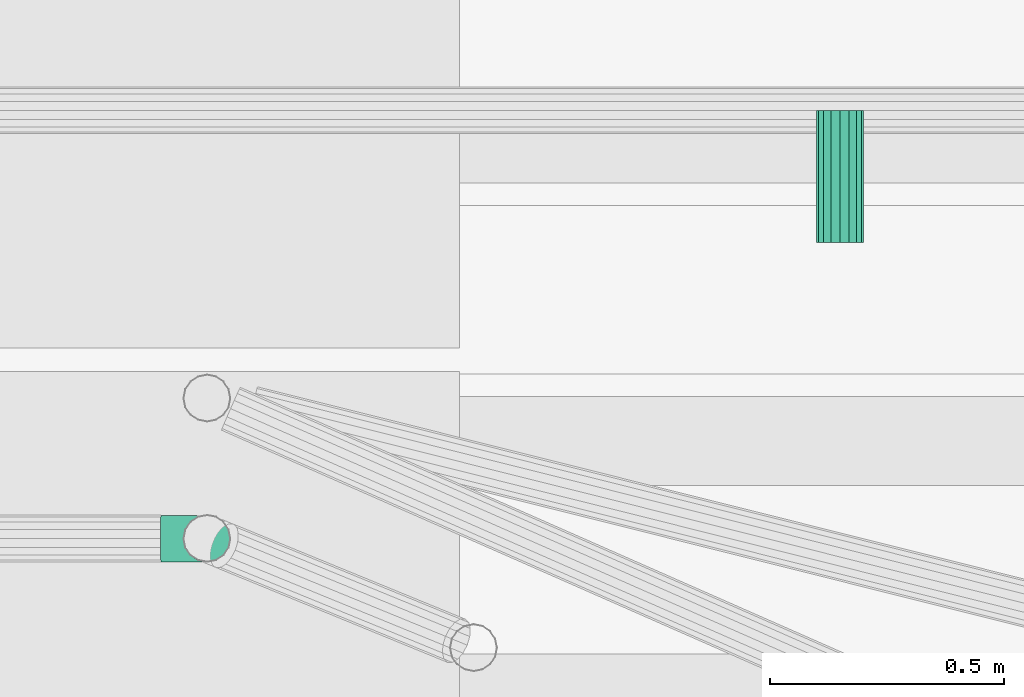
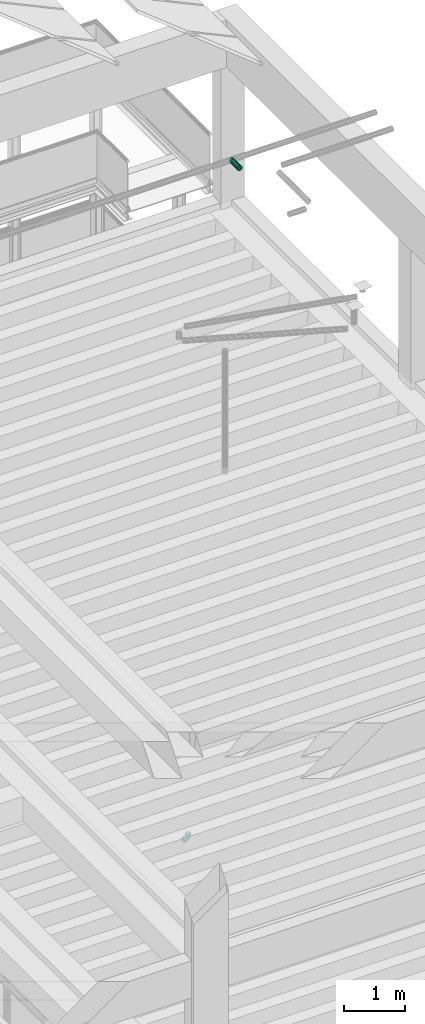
# One storey, part 97 of 106: 1 flow fitting, 1 flow segment.
"""IFC2X3 building model written with IfcOpenShell, lengths in metres."""

from ifc_helpers import new_model, entity, si_unit, converted_unit, derived_unit, money_unit, direction, frame, origin_with_axes, place, context, subcontext, project, spatial, open_shell, faceted_brep, surface_model, material, type_object, element, save


model = new_model("IFC2X3")

# Units and contexts
model_context = context("Model", 3, precision=1e-05, world=origin_with_axes(), true_north=direction((0.0, 1.0)))
body_context = subcontext(model_context, "Body", "Model", "MODEL_VIEW", scale=1.0)
ifc_project = project(units=[si_unit("LENGTHUNIT", "METRE"), si_unit("AREAUNIT", "SQUARE_METRE"), si_unit("VOLUMEUNIT", "CUBIC_METRE"), si_unit("ABSORBEDDOSEUNIT", "GRAY"), si_unit("AMOUNTOFSUBSTANCEUNIT", "MOLE"), si_unit("DOSEEQUIVALENTUNIT", "SIEVERT"), si_unit("ELECTRICCAPACITANCEUNIT", "FARAD"), si_unit("ELECTRICCHARGEUNIT", "COULOMB"), si_unit("ELECTRICCONDUCTANCEUNIT", "SIEMENS"), si_unit("ELECTRICCURRENTUNIT", "AMPERE"), si_unit("ELECTRICRESISTANCEUNIT", "OHM"), si_unit("ELECTRICVOLTAGEUNIT", "VOLT"), si_unit("ENERGYUNIT", "JOULE"), si_unit("FORCEUNIT", "NEWTON"), si_unit("FREQUENCYUNIT", "HERTZ"), si_unit("ILLUMINANCEUNIT", "LUX"), si_unit("INDUCTANCEUNIT", "HENRY"), si_unit("LUMINOUSFLUXUNIT", "LUMEN"), si_unit("LUMINOUSINTENSITYUNIT", "CANDELA"), si_unit("MAGNETICFLUXDENSITYUNIT", "TESLA"), si_unit("MAGNETICFLUXUNIT", "WEBER"), si_unit("MASSUNIT", "GRAM"), converted_unit("PLANEANGLEUNIT", "degree", entity("IfcReal", 0.0174532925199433), si_unit("PLANEANGLEUNIT", "RADIAN"), dimensions=[0, 0, 0, 0, 0, 0, 0]), si_unit("POWERUNIT", "WATT"), si_unit("PRESSUREUNIT", "PASCAL"), si_unit("RADIOACTIVITYUNIT", "BECQUEREL"), si_unit("SOLIDANGLEUNIT", "STERADIAN"), si_unit("THERMODYNAMICTEMPERATUREUNIT", "KELVIN"), si_unit("TIMEUNIT", "SECOND"), derived_unit("ACCELERATIONUNIT", [(si_unit("LENGTHUNIT", "METRE"), 1), (si_unit("TIMEUNIT", "SECOND"), -2)]), derived_unit("ANGULARVELOCITYUNIT", [(converted_unit("PLANEANGLEUNIT", "degree", entity("IfcReal", 0.0174532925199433), si_unit("PLANEANGLEUNIT", "RADIAN"), dimensions=[0, 0, 0, 0, 0, 0, 0]), 1), (si_unit("TIMEUNIT", "SECOND"), -1)]), derived_unit("CURVATUREUNIT", [(converted_unit("PLANEANGLEUNIT", "degree", entity("IfcReal", 0.0174532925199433), si_unit("PLANEANGLEUNIT", "RADIAN"), dimensions=[0, 0, 0, 0, 0, 0, 0]), 1), (si_unit("LENGTHUNIT", "METRE"), -1)]), derived_unit("DYNAMICVISCOSITYUNIT", [(si_unit("PRESSUREUNIT", "PASCAL"), 1), (si_unit("TIMEUNIT", "SECOND"), 1)]), derived_unit("HEATFLUXDENSITYUNIT", [(si_unit("POWERUNIT", "WATT"), 1), (si_unit("LENGTHUNIT", "METRE"), -2)]), derived_unit("HEATINGVALUEUNIT", [(si_unit("ENERGYUNIT", "JOULE"), 1), (si_unit("MASSUNIT", "GRAM"), -1)]), derived_unit("INTEGERCOUNTRATEUNIT", [(si_unit("TIMEUNIT", "SECOND"), -1)]), derived_unit("IONCONCENTRATIONUNIT", [(si_unit("MASSUNIT", "GRAM"), 1), (si_unit("VOLUMEUNIT", "CUBIC_METRE"), -1)]), derived_unit("ISOTHERMALMOISTURECAPACITYUNIT", [(si_unit("VOLUMEUNIT", "CUBIC_METRE"), 1), (si_unit("MASSUNIT", "GRAM"), -1)]), derived_unit("KINEMATICVISCOSITYUNIT", [(si_unit("AREAUNIT", "SQUARE_METRE"), 1), (si_unit("TIMEUNIT", "SECOND"), -1)]), derived_unit("LINEARFORCEUNIT", [(si_unit("FORCEUNIT", "NEWTON"), 1), (si_unit("LENGTHUNIT", "METRE"), -1)]), derived_unit("LINEARMOMENTUNIT", [(si_unit("FORCEUNIT", "NEWTON"), 1), (si_unit("LENGTHUNIT", "METRE"), -1)]), derived_unit("LINEARSTIFFNESSUNIT", [(si_unit("FORCEUNIT", "NEWTON"), 1), (si_unit("LENGTHUNIT", "METRE"), -1)]), derived_unit("LINEARVELOCITYUNIT", [(si_unit("LENGTHUNIT", "METRE"), 1), (si_unit("TIMEUNIT", "SECOND"), -1)]), derived_unit("LUMINOUSINTENSITYDISTRIBUTIONUNIT", [(si_unit("LUMINOUSINTENSITYUNIT", "CANDELA"), 1), (si_unit("LUMINOUSFLUXUNIT", "LUMEN"), -1)]), derived_unit("MASSDENSITYUNIT", [(si_unit("MASSUNIT", "GRAM"), 1), (si_unit("VOLUMEUNIT", "CUBIC_METRE"), -1)]), derived_unit("MASSFLOWRATEUNIT", [(si_unit("MASSUNIT", "GRAM"), 1), (si_unit("TIMEUNIT", "SECOND"), -1)]), derived_unit("MASSPERLENGTHUNIT", [(si_unit("MASSUNIT", "GRAM"), 1), (si_unit("LENGTHUNIT", "METRE"), -1)]), derived_unit("MODULUSOFELASTICITYUNIT", [(si_unit("FORCEUNIT", "NEWTON"), 1), (si_unit("AREAUNIT", "SQUARE_METRE"), -1)]), derived_unit("MODULUSOFLINEARSUBGRADEREACTIONUNIT", [(si_unit("FORCEUNIT", "NEWTON"), 1), (si_unit("LENGTHUNIT", "METRE"), -2)]), derived_unit("MODULUSOFROTATIONALSUBGRADEREACTIONUNIT", [(si_unit("FORCEUNIT", "NEWTON"), 1), (si_unit("LENGTHUNIT", "METRE"), 1)]), derived_unit("MODULUSOFSUBGRADEREACTIONUNIT", [(si_unit("FORCEUNIT", "NEWTON"), 1), (si_unit("VOLUMEUNIT", "CUBIC_METRE"), -1)]), derived_unit("MOISTUREDIFFUSIVITYUNIT", [(si_unit("VOLUMEUNIT", "CUBIC_METRE"), 1), (si_unit("TIMEUNIT", "SECOND"), -1)]), derived_unit("MOLECULARWEIGHTUNIT", [(si_unit("MASSUNIT", "GRAM"), 1), (si_unit("AMOUNTOFSUBSTANCEUNIT", "MOLE"), -1)]), derived_unit("PLANARFORCEUNIT", [(si_unit("FORCEUNIT", "NEWTON"), 1), (si_unit("LENGTHUNIT", "METRE"), -2)]), derived_unit("ROTATIONALFREQUENCYUNIT", [(si_unit("TIMEUNIT", "SECOND"), -1)]), derived_unit("ROTATIONALMASSUNIT", [(si_unit("MASSUNIT", "GRAM"), 1), (si_unit("LENGTHUNIT", "METRE"), 2)]), derived_unit("ROTATIONALSTIFFNESSUNIT", [(si_unit("FORCEUNIT", "NEWTON"), 1), (si_unit("LENGTHUNIT", "METRE"), 1), (converted_unit("PLANEANGLEUNIT", "degree", entity("IfcReal", 0.0174532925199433), si_unit("PLANEANGLEUNIT", "RADIAN"), dimensions=[0, 0, 0, 0, 0, 0, 0]), -1)]), derived_unit("SECTIONAREAINTEGRALUNIT", [(si_unit("LENGTHUNIT", "METRE"), 5)]), derived_unit("SECTIONMODULUSUNIT", [(si_unit("LENGTHUNIT", "METRE"), 3)]), derived_unit("SHEARMODULUSUNIT", [(si_unit("FORCEUNIT", "NEWTON"), 1), (si_unit("AREAUNIT", "SQUARE_METRE"), -1)]), derived_unit("SOUNDPOWERUNIT", [(si_unit("ENERGYUNIT", "JOULE"), 1), (si_unit("TIMEUNIT", "SECOND"), -1)]), derived_unit("SPECIFICHEATCAPACITYUNIT", [(si_unit("FORCEUNIT", "NEWTON"), 1), (si_unit("MASSUNIT", "GRAM"), -1), (si_unit("THERMODYNAMICTEMPERATUREUNIT", "KELVIN"), -1)]), derived_unit("TEMPERATUREGRADIENTUNIT", [(si_unit("THERMODYNAMICTEMPERATUREUNIT", "KELVIN"), 1), (si_unit("LENGTHUNIT", "METRE"), -1)]), derived_unit("THERMALADMITTANCEUNIT", [(si_unit("POWERUNIT", "WATT"), 1), (si_unit("AREAUNIT", "SQUARE_METRE"), -1), (si_unit("THERMODYNAMICTEMPERATUREUNIT", "KELVIN"), -1)]), derived_unit("THERMALCONDUCTANCEUNIT", [(si_unit("POWERUNIT", "WATT"), 1), (si_unit("LENGTHUNIT", "METRE"), -1), (si_unit("THERMODYNAMICTEMPERATUREUNIT", "KELVIN"), -1)]), derived_unit("THERMALEXPANSIONCOEFFICIENTUNIT", [(si_unit("THERMODYNAMICTEMPERATUREUNIT", "KELVIN"), -1)]), derived_unit("THERMALRESISTANCEUNIT", [(si_unit("AREAUNIT", "SQUARE_METRE"), 1), (si_unit("POWERUNIT", "WATT"), -1)]), derived_unit("THERMALTRANSMITTANCEUNIT", [(si_unit("POWERUNIT", "WATT"), 1), (si_unit("AREAUNIT", "SQUARE_METRE"), -1), (si_unit("THERMODYNAMICTEMPERATUREUNIT", "KELVIN"), -1)]), derived_unit("TORQUEUNIT", [(si_unit("FORCEUNIT", "NEWTON"), 1), (si_unit("LENGTHUNIT", "METRE"), 1)]), derived_unit("VAPORPERMEABILITYUNIT", [(si_unit("MASSUNIT", "GRAM"), 1), (si_unit("TIMEUNIT", "SECOND"), -1)]), derived_unit("VOLUMETRICFLOWRATEUNIT", [(si_unit("VOLUMEUNIT", "CUBIC_METRE"), 1), (si_unit("TIMEUNIT", "SECOND"), -1)]), derived_unit("WARPINGCONSTANTUNIT", [(si_unit("LENGTHUNIT", "METRE"), 6)]), derived_unit("WARPINGMOMENTUNIT", [(si_unit("FORCEUNIT", "NEWTON"), 1), (si_unit("LENGTHUNIT", "METRE"), 2)]), money_unit("GBP")], contexts=[model_context])

# Site, building, storey
site_placement = place(None, origin_with_axes())
site = spatial("IfcSite", under=ifc_project, at=site_placement, Name="Site", CompositionType="ELEMENT")
building_placement = place(site_placement, origin_with_axes())
building = spatial("IfcBuilding", under=site, at=building_placement, Name="Building01", CompositionType="ELEMENT")
storey_placement = place(building_placement, origin_with_axes())
storey = spatial("IfcBuildingStorey", under=building, at=storey_placement, Name="GF", CompositionType="ELEMENT", Elevation=0.0)

# Flow segment
ifc_material_1 = material(Name="M_BSUK_Ventilation")
duct_segment_type = type_object("IfcDuctSegmentType", Name="M-RoundDuct", PredefinedType="RIGIDSEGMENT")
flow_segment_placement = place(storey_placement, frame((23.43, 8.749648, 17.28), z_axis=(0.0, 0.0, 1.0), x_axis=(0.0, 1.0, 0.0)))
element("IfcFlowSegment", 1, at=flow_segment_placement, inside=storey, type_object=duct_segment_type, material=ifc_material_1, Name="M-RoundDuct", ObjectType="M-RoundDuct", context=body_context, shape_type="Brep", body=[
    faceted_brep([(0.282911, 0.0, -0.05), (0.0, 0.0, -0.05), (0.0, 0.019134, -0.046194), (0.282911, 0.019134, -0.046194), (0.0, 0.035355, -0.035355), (0.282911, 0.035355, -0.035355), (0.0, 0.046194, -0.019134), (0.282911, 0.046194, -0.019134), (0.0, 0.05, 0.0), (0.282911, 0.05, 0.0), (0.0, 0.046194, 0.019134), (0.282911, 0.046194, 0.019134), (0.0, 0.035355, 0.035355), (0.282911, 0.035355, 0.035355), (0.0, 0.019134, 0.046194), (0.282911, 0.019134, 0.046194), (0.0, 0.0, 0.05), (0.282911, 0.0, 0.05), (0.0, -0.019134, 0.046194), (0.282911, -0.019134, 0.046194), (0.0, -0.035355, 0.035355), (0.282911, -0.035355, 0.035355), (0.0, -0.046194, 0.019134), (0.282911, -0.046194, 0.019134), (0.0, -0.05, 0.0), (0.282911, -0.05, 0.0), (0.0, -0.046194, -0.019134), (0.282911, -0.046194, -0.019134), (0.0, -0.035355, -0.035355), (0.282911, -0.035355, -0.035355), (0.0, -0.019134, -0.046194), (0.282911, -0.019134, -0.046194)], [[[0, 1, 2, 3]], [[3, 2, 4, 5]], [[5, 4, 6, 7]], [[7, 6, 8, 9]], [[9, 8, 10, 11]], [[11, 10, 12, 13]], [[13, 12, 14, 15]], [[15, 14, 16, 17]], [[17, 16, 18, 19]], [[19, 18, 20, 21]], [[21, 20, 22, 23]], [[23, 22, 24, 25]], [[25, 24, 26, 27]], [[27, 26, 28, 29]], [[29, 28, 30, 31]], [[31, 30, 1, 0]]]),
])

# Flow fitting
ifc_material_2 = material(Name="M_BSUK_ColdWater")
pipe_fitting_type = type_object("IfcPipeFittingType", Name="M-BmpElbow-DefaultElbow", PredefinedType="BEND")
flow_fitting_placement = place(storey_placement, frame((22.076661, 8.116912, 4.751533), z_axis=(1.0, 0.0, 0.0), x_axis=(0.0, 0.0, -1.0)))
element("IfcFlowFitting", 2, at=flow_fitting_placement, inside=storey, type_object=pipe_fitting_type, material=ifc_material_2, Name="M-BmpElbow-DefaultElbow", ObjectType="M-BmpElbow-DefaultElbow", context=body_context, shape_type="SurfaceModel", body=[
    surface_model("IfcShellBasedSurfaceModel", [(0.008048, -0.01349, -0.048774), (0.0, -0.01349, -0.048146), (0.0, 0.0, -0.05), (0.00776, 0.0, -0.050606), (0.0159, -0.01349, -0.050644), (0.015332, 0.0, -0.052409), (0.023368, -0.01349, -0.05371), (0.022532, 0.0, -0.055365), (0.030269, -0.01349, -0.057897), (0.029187, 0.0, -0.059403), (0.036437, -0.01349, -0.063105), (0.035134, 0.0, -0.064424), (0.041721, -0.01349, -0.069207), (0.040229, 0.0, -0.070308), (0.045995, -0.01349, -0.076055), (0.04435, 0.0, -0.076912), (0.049154, -0.01349, -0.083484), (0.047396, 0.0, -0.084074), (0.051121, -0.01349, -0.091313), (0.049293, 0.0, -0.091623), (0.05185, -0.01349, -0.099352), (0.049996, 0.0, -0.099375), (0.00889, -0.025979, -0.043415), (0.0, -0.025979, -0.042721), (0.017564, -0.025979, -0.04548), (0.025813, -0.025979, -0.048867), (0.033436, -0.025979, -0.053493), (0.040248, -0.025979, -0.059245), (0.046086, -0.025979, -0.065986), (0.050807, -0.025979, -0.07355), (0.054296, -0.025979, -0.081756), (0.056469, -0.025979, -0.090404), (0.057275, -0.025979, -0.099284), (0.010223, -0.036542, -0.034926), (0.0, -0.036542, -0.034128), (0.020199, -0.036542, -0.037301), (0.029685, -0.036542, -0.041196), (0.038452, -0.036542, -0.046515), (0.046287, -0.036542, -0.053131), (0.053, -0.036542, -0.060883), (0.058429, -0.036542, -0.069582), (0.062442, -0.036542, -0.079019), (0.064941, -0.036542, -0.088964), (0.065867, -0.036542, -0.099177), (0.01195, -0.044394, -0.023936), (0.0, -0.044394, -0.023003), (0.02361, -0.044394, -0.026712), (0.034698, -0.044394, -0.031265), (0.044946, -0.044394, -0.037483), (0.054104, -0.044394, -0.045216), (0.061951, -0.044394, -0.054277), (0.068296, -0.044394, -0.064445), (0.072987, -0.044394, -0.075476), (0.075908, -0.044394, -0.0871), (0.076991, -0.044394, -0.099038), (0.013941, -0.048954, -0.011261), (0.0, -0.048954, -0.010173), (0.027544, -0.048954, -0.0145), (0.04048, -0.048954, -0.019811), (0.052435, -0.048954, -0.027065), (0.063119, -0.048954, -0.036087), (0.072274, -0.048954, -0.046657), (0.079677, -0.048954, -0.058521), (0.085149, -0.048954, -0.071389), (0.088558, -0.048954, -0.084951), (0.08982, -0.048954, -0.098877), (0.01605, -0.049883, 0.002159), (0.0, -0.049883, 0.003412), (0.03171, -0.049883, -0.00157), (0.046602, -0.049883, -0.007684), (0.060365, -0.049883, -0.016035), (0.072665, -0.049883, -0.026421), (0.083204, -0.049883, -0.03859), (0.091727, -0.049883, -0.052247), (0.098026, -0.049883, -0.067062), (0.101951, -0.049883, -0.082675), (0.103404, -0.049883, -0.098707), (0.018119, -0.047113, 0.015329), (0.0, -0.047113, 0.016744), (0.035798, -0.047113, 0.01112), (0.05261, -0.047113, 0.004218), (0.068147, -0.047113, -0.00521), (0.082033, -0.047113, -0.016935), (0.093931, -0.047113, -0.030673), (0.103552, -0.047113, -0.046091), (0.110664, -0.047113, -0.062816), (0.115094, -0.047113, -0.080441), (0.116735, -0.047113, -0.098541), (0.019995, -0.040848, 0.027273), (0.0, -0.040848, 0.028834), (0.039505, -0.040848, 0.022628), (0.058059, -0.040848, 0.01501), (0.075205, -0.040848, 0.004606), (0.090528, -0.040848, -0.008333), (0.103658, -0.040848, -0.023494), (0.114276, -0.040848, -0.040508), (0.122124, -0.040848, -0.058965), (0.127013, -0.040848, -0.078416), (0.128824, -0.040848, -0.09839), (0.021539, -0.031554, 0.037104), (0.0, -0.031554, 0.038786), (0.042557, -0.031554, 0.0321), (0.062543, -0.031554, 0.023894), (0.081014, -0.031554, 0.012686), (0.097521, -0.031554, -0.001252), (0.111665, -0.031554, -0.017584), (0.123103, -0.031554, -0.035913), (0.131557, -0.031554, -0.055795), (0.136824, -0.031554, -0.076749), (0.138775, -0.031554, -0.098265), (0.022638, -0.01992, 0.044093), (0.0, -0.01992, 0.045861), (0.044726, -0.01992, 0.038834), (0.065732, -0.01992, 0.03021), (0.085144, -0.01992, 0.018431), (0.102492, -0.01992, 0.003782), (0.117357, -0.01992, -0.013383), (0.129378, -0.01992, -0.032646), (0.138264, -0.01992, -0.053542), (0.143799, -0.01992, -0.075563), (0.145849, -0.01992, -0.098177), (0.023208, -0.006808, 0.047722), (0.0, -0.006808, 0.049534), (0.045853, -0.006808, 0.042331), (0.067387, -0.006808, 0.03349), (0.087288, -0.006808, 0.021414), (0.105074, -0.006808, 0.006395), (0.120313, -0.006808, -0.011201), (0.132637, -0.006808, -0.03095), (0.141746, -0.006808, -0.052372), (0.147421, -0.006808, -0.074948), (0.149523, -0.006808, -0.098131), (0.023208, 0.006808, 0.047722), (0.0, 0.006808, 0.049534), (0.045853, 0.006808, 0.042331), (0.067387, 0.006808, 0.03349), (0.087288, 0.006808, 0.021414), (0.105074, 0.006808, 0.006395), (0.120313, 0.006808, -0.011201), (0.132637, 0.006808, -0.03095), (0.141746, 0.006808, -0.052372), (0.147421, 0.006808, -0.074948), (0.149523, 0.006808, -0.098131), (0.022638, 0.01992, 0.044093), (0.0, 0.01992, 0.045861), (0.044726, 0.01992, 0.038834), (0.065732, 0.01992, 0.03021), (0.085144, 0.01992, 0.018431), (0.102492, 0.01992, 0.003782), (0.117357, 0.01992, -0.013383), (0.129378, 0.01992, -0.032646), (0.138264, 0.01992, -0.053542), (0.143799, 0.01992, -0.075563), (0.145849, 0.01992, -0.098177), (0.021539, 0.031554, 0.037104), (0.0, 0.031554, 0.038786), (0.042557, 0.031554, 0.0321), (0.062543, 0.031554, 0.023894), (0.081014, 0.031554, 0.012686), (0.097521, 0.031554, -0.001252), (0.111665, 0.031554, -0.017584), (0.123103, 0.031554, -0.035913), (0.131557, 0.031554, -0.055795), (0.136824, 0.031554, -0.076749), (0.138775, 0.031554, -0.098265), (0.019995, 0.040848, 0.027273), (0.0, 0.040848, 0.028834), (0.039505, 0.040848, 0.022628), (0.058059, 0.040848, 0.01501), (0.075205, 0.040848, 0.004606), (0.090528, 0.040848, -0.008333), (0.103658, 0.040848, -0.023494), (0.114276, 0.040848, -0.040508), (0.122124, 0.040848, -0.058965), (0.127013, 0.040848, -0.078416), (0.128824, 0.040848, -0.09839), (0.018119, 0.047113, 0.015329), (0.0, 0.047113, 0.016744), (0.035798, 0.047113, 0.01112), (0.05261, 0.047113, 0.004218), (0.068147, 0.047113, -0.00521), (0.082033, 0.047113, -0.016935), (0.093931, 0.047113, -0.030673), (0.103552, 0.047113, -0.046091), (0.110664, 0.047113, -0.062816), (0.115094, 0.047113, -0.080441), (0.116735, 0.047113, -0.098541), (0.01605, 0.049883, 0.002159), (0.0, 0.049883, 0.003412), (0.03171, 0.049883, -0.00157), (0.046602, 0.049883, -0.007684), (0.060365, 0.049883, -0.016035), (0.072665, 0.049883, -0.026421), (0.083204, 0.049883, -0.03859), (0.091727, 0.049883, -0.052247), (0.098026, 0.049883, -0.067062), (0.101951, 0.049883, -0.082675), (0.103404, 0.049883, -0.098707), (0.013941, 0.048954, -0.011261), (0.0, 0.048954, -0.010173), (0.027544, 0.048954, -0.0145), (0.04048, 0.048954, -0.019811), (0.052435, 0.048954, -0.027065), (0.063119, 0.048954, -0.036087), (0.072274, 0.048954, -0.046657), (0.079677, 0.048954, -0.058521), (0.085149, 0.048954, -0.071389), (0.088558, 0.048954, -0.084951), (0.08982, 0.048954, -0.098877), (0.01195, 0.044394, -0.023936), (0.0, 0.044394, -0.023003), (0.02361, 0.044394, -0.026712), (0.034698, 0.044394, -0.031265), (0.044946, 0.044394, -0.037483), (0.054104, 0.044394, -0.045216), (0.061951, 0.044394, -0.054277), (0.068296, 0.044394, -0.064445), (0.072987, 0.044394, -0.075476), (0.075908, 0.044394, -0.0871), (0.076991, 0.044394, -0.099038), (0.010223, 0.036542, -0.034926), (0.0, 0.036542, -0.034128), (0.020199, 0.036542, -0.037301), (0.029685, 0.036542, -0.041196), (0.038452, 0.036542, -0.046515), (0.046287, 0.036542, -0.053131), (0.053, 0.036542, -0.060883), (0.058429, 0.036542, -0.069582), (0.062442, 0.036542, -0.079019), (0.064941, 0.036542, -0.088964), (0.065867, 0.036542, -0.099177), (0.00889, 0.025979, -0.043415), (0.0, 0.025979, -0.042721), (0.017564, 0.025979, -0.04548), (0.025813, 0.025979, -0.048867), (0.033436, 0.025979, -0.053493), (0.040248, 0.025979, -0.059245), (0.046086, 0.025979, -0.065986), (0.050807, 0.025979, -0.07355), (0.054296, 0.025979, -0.081756), (0.056469, 0.025979, -0.090404), (0.057275, 0.025979, -0.099284), (0.008048, 0.01349, -0.048774), (0.0, 0.01349, -0.048146), (0.0159, 0.01349, -0.050644), (0.023368, 0.01349, -0.05371), (0.030269, 0.01349, -0.057897), (0.036437, 0.01349, -0.063105), (0.041721, 0.01349, -0.069207), (0.045995, 0.01349, -0.076055), (0.049154, 0.01349, -0.083484), (0.051121, 0.01349, -0.091313), (0.05185, 0.01349, -0.099352)], [open_shell([[[0, 1, 2, 3]], [[4, 0, 3, 5]], [[6, 4, 5, 7]], [[8, 6, 7, 9]], [[10, 8, 9, 11]], [[12, 10, 11, 13]], [[14, 12, 13, 15]], [[16, 14, 15, 17]], [[18, 16, 17, 19]], [[20, 18, 19, 21]], [[22, 23, 1, 0]], [[24, 22, 0, 4]], [[25, 24, 4, 6]], [[26, 25, 6, 8]], [[27, 26, 8, 10]], [[28, 27, 10, 12]], [[29, 28, 12, 14]], [[30, 29, 14, 16]], [[31, 30, 16, 18]], [[32, 31, 18, 20]], [[33, 34, 23, 22]], [[35, 33, 22, 24]], [[36, 35, 24, 25]], [[37, 36, 25, 26]], [[38, 37, 26, 27]], [[39, 38, 27, 28]], [[40, 39, 28, 29]], [[41, 40, 29, 30]], [[42, 41, 30, 31]], [[43, 42, 31, 32]], [[44, 45, 34, 33]], [[46, 44, 33, 35]], [[47, 46, 35, 36]], [[48, 47, 36, 37]], [[49, 48, 37, 38]], [[50, 49, 38, 39]], [[51, 50, 39, 40]], [[52, 51, 40, 41]], [[53, 52, 41, 42]], [[54, 53, 42, 43]], [[55, 56, 45, 44]], [[57, 55, 44, 46]], [[58, 57, 46, 47]], [[59, 58, 47, 48]], [[60, 59, 48, 49]], [[61, 60, 49, 50]], [[62, 61, 50, 51]], [[63, 62, 51, 52]], [[64, 63, 52, 53]], [[65, 64, 53, 54]], [[66, 67, 56, 55]], [[68, 66, 55, 57]], [[69, 68, 57, 58]], [[70, 69, 58, 59]], [[71, 70, 59, 60]], [[72, 71, 60, 61]], [[73, 72, 61, 62]], [[74, 73, 62, 63]], [[75, 74, 63, 64]], [[76, 75, 64, 65]], [[77, 78, 67, 66]], [[79, 77, 66, 68]], [[80, 79, 68, 69]], [[81, 80, 69, 70]], [[82, 81, 70, 71]], [[83, 82, 71, 72]], [[84, 83, 72, 73]], [[85, 84, 73, 74]], [[86, 85, 74, 75]], [[87, 86, 75, 76]], [[88, 89, 78, 77]], [[90, 88, 77, 79]], [[91, 90, 79, 80]], [[92, 91, 80, 81]], [[93, 92, 81, 82]], [[94, 93, 82, 83]], [[95, 94, 83, 84]], [[96, 95, 84, 85]], [[97, 96, 85, 86]], [[98, 97, 86, 87]], [[99, 100, 89, 88]], [[101, 99, 88, 90]], [[102, 101, 90, 91]], [[103, 102, 91, 92]], [[104, 103, 92, 93]], [[105, 104, 93, 94]], [[106, 105, 94, 95]], [[107, 106, 95, 96]], [[108, 107, 96, 97]], [[109, 108, 97, 98]], [[110, 111, 100, 99]], [[112, 110, 99, 101]], [[113, 112, 101, 102]], [[114, 113, 102, 103]], [[115, 114, 103, 104]], [[116, 115, 104, 105]], [[117, 116, 105, 106]], [[118, 117, 106, 107]], [[119, 118, 107, 108]], [[120, 119, 108, 109]], [[121, 122, 111, 110]], [[123, 121, 110, 112]], [[124, 123, 112, 113]], [[125, 124, 113, 114]], [[126, 125, 114, 115]], [[127, 126, 115, 116]], [[128, 127, 116, 117]], [[129, 128, 117, 118]], [[130, 129, 118, 119]], [[131, 130, 119, 120]], [[132, 133, 122, 121]], [[134, 132, 121, 123]], [[135, 134, 123, 124]], [[136, 135, 124, 125]], [[137, 136, 125, 126]], [[138, 137, 126, 127]], [[139, 138, 127, 128]], [[140, 139, 128, 129]], [[141, 140, 129, 130]], [[142, 141, 130, 131]], [[143, 144, 133, 132]], [[145, 143, 132, 134]], [[146, 145, 134, 135]], [[147, 146, 135, 136]], [[148, 147, 136, 137]], [[149, 148, 137, 138]], [[150, 149, 138, 139]], [[151, 150, 139, 140]], [[152, 151, 140, 141]], [[153, 152, 141, 142]], [[154, 155, 144, 143]], [[156, 154, 143, 145]], [[157, 156, 145, 146]], [[158, 157, 146, 147]], [[159, 158, 147, 148]], [[160, 159, 148, 149]], [[161, 160, 149, 150]], [[162, 161, 150, 151]], [[163, 162, 151, 152]], [[164, 163, 152, 153]], [[165, 166, 155, 154]], [[167, 165, 154, 156]], [[168, 167, 156, 157]], [[169, 168, 157, 158]], [[170, 169, 158, 159]], [[171, 170, 159, 160]], [[172, 171, 160, 161]], [[173, 172, 161, 162]], [[174, 173, 162, 163]], [[175, 174, 163, 164]], [[176, 177, 166, 165]], [[178, 176, 165, 167]], [[179, 178, 167, 168]], [[180, 179, 168, 169]], [[181, 180, 169, 170]], [[182, 181, 170, 171]], [[183, 182, 171, 172]], [[184, 183, 172, 173]], [[185, 184, 173, 174]], [[186, 185, 174, 175]], [[187, 188, 177, 176]], [[189, 187, 176, 178]], [[190, 189, 178, 179]], [[191, 190, 179, 180]], [[192, 191, 180, 181]], [[193, 192, 181, 182]], [[194, 193, 182, 183]], [[195, 194, 183, 184]], [[196, 195, 184, 185]], [[197, 196, 185, 186]], [[198, 199, 188, 187]], [[200, 198, 187, 189]], [[201, 200, 189, 190]], [[202, 201, 190, 191]], [[203, 202, 191, 192]], [[204, 203, 192, 193]], [[205, 204, 193, 194]], [[206, 205, 194, 195]], [[207, 206, 195, 196]], [[208, 207, 196, 197]], [[209, 210, 199, 198]], [[211, 209, 198, 200]], [[212, 211, 200, 201]], [[213, 212, 201, 202]], [[214, 213, 202, 203]], [[215, 214, 203, 204]], [[216, 215, 204, 205]], [[217, 216, 205, 206]], [[218, 217, 206, 207]], [[219, 218, 207, 208]], [[220, 221, 210, 209]], [[222, 220, 209, 211]], [[223, 222, 211, 212]], [[224, 223, 212, 213]], [[225, 224, 213, 214]], [[226, 225, 214, 215]], [[227, 226, 215, 216]], [[228, 227, 216, 217]], [[229, 228, 217, 218]], [[230, 229, 218, 219]], [[231, 232, 221, 220]], [[233, 231, 220, 222]], [[234, 233, 222, 223]], [[235, 234, 223, 224]], [[236, 235, 224, 225]], [[237, 236, 225, 226]], [[238, 237, 226, 227]], [[239, 238, 227, 228]], [[240, 239, 228, 229]], [[241, 240, 229, 230]], [[242, 243, 232, 231]], [[244, 242, 231, 233]], [[245, 244, 233, 234]], [[246, 245, 234, 235]], [[247, 246, 235, 236]], [[248, 247, 236, 237]], [[249, 248, 237, 238]], [[250, 249, 238, 239]], [[251, 250, 239, 240]], [[252, 251, 240, 241]], [[3, 2, 243, 242]], [[5, 3, 242, 244]], [[7, 5, 244, 245]], [[9, 7, 245, 246]], [[11, 9, 246, 247]], [[13, 11, 247, 248]], [[15, 13, 248, 249]], [[17, 15, 249, 250]], [[19, 17, 250, 251]], [[21, 19, 251, 252]]])]),
])

save(model, "model.ifc")
